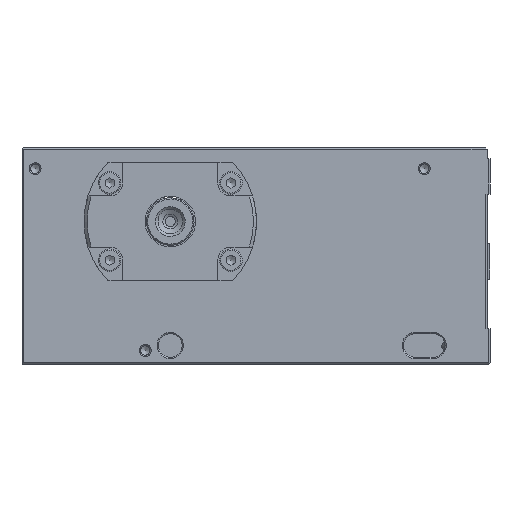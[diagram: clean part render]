
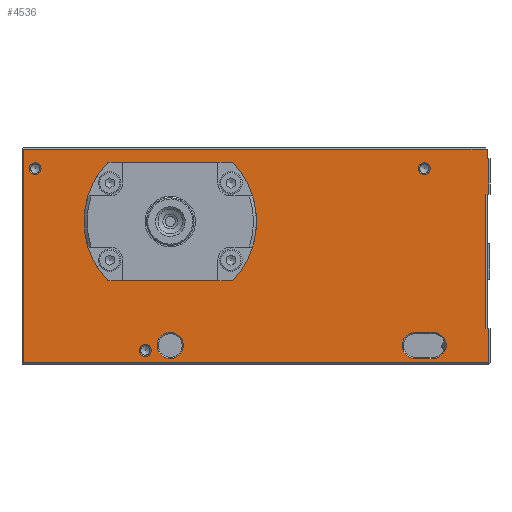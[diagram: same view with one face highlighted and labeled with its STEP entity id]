
A CAD part, left-side view. The second image highlights one B-rep face of the part: STEP entity #4536.
In plain terms, the highlighted planar face has unit normal (-1, 0, 0).
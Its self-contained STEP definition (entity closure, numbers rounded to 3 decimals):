
#171=CARTESIAN_POINT('',(0.0,43.6,31.284));
#172=VERTEX_POINT('',#171);
#173=CARTESIAN_POINT('',(0.0,43.6,30.5));
#174=DIRECTION('',(1.0,0.0,0.0));
#175=DIRECTION('',(0.0,0.0,1.0));
#176=AXIS2_PLACEMENT_3D('',#173,#174,#175);
#177=CIRCLE('',#176,0.784);
#178=EDGE_CURVE('',#172,#172,#177,.T.);
#250=CARTESIAN_POINT('',(0.0,43.6,18.284));
#251=VERTEX_POINT('',#250);
#252=CARTESIAN_POINT('',(0.0,43.6,17.5));
#253=DIRECTION('',(1.0,0.0,0.0));
#254=DIRECTION('',(0.0,0.0,1.0));
#255=AXIS2_PLACEMENT_3D('',#252,#253,#254);
#256=CIRCLE('',#255,0.784);
#257=EDGE_CURVE('',#251,#251,#256,.T.);
#329=CARTESIAN_POINT('',(0.0,64.,31.284));
#330=VERTEX_POINT('',#329);
#331=CARTESIAN_POINT('',(0.0,64.,30.5));
#332=DIRECTION('',(1.0,0.0,0.0));
#333=DIRECTION('',(0.0,0.0,1.0));
#334=AXIS2_PLACEMENT_3D('',#331,#332,#333);
#335=CIRCLE('',#334,0.784);
#336=EDGE_CURVE('',#330,#330,#335,.T.);
#408=CARTESIAN_POINT('',(0.0,64.,18.284));
#409=VERTEX_POINT('',#408);
#410=CARTESIAN_POINT('',(0.0,64.,17.5));
#411=DIRECTION('',(1.0,0.0,0.0));
#412=DIRECTION('',(0.0,0.0,1.0));
#413=AXIS2_PLACEMENT_3D('',#410,#411,#412);
#414=CIRCLE('',#413,0.784);
#415=EDGE_CURVE('',#409,#409,#414,.T.);
#1471=CARTESIAN_POINT('',(0.,0.5,34.6));
#1472=VERTEX_POINT('',#1471);
#1479=CARTESIAN_POINT('',(0.0,0.2,34.6));
#1480=VERTEX_POINT('',#1479);
#1481=CARTESIAN_POINT('',(0.0,0.2,34.6));
#1482=DIRECTION('',(0.0,1.0,0.0));
#1483=VECTOR('',#1482,0.3);
#1484=LINE('',#1481,#1483);
#1485=EDGE_CURVE('',#1480,#1472,#1484,.T.);
#3937=CARTESIAN_POINT('',(0.0,0.2,0.2));
#3938=VERTEX_POINT('',#3937);
#3945=CARTESIAN_POINT('',(0.0,78.55,0.2));
#3946=VERTEX_POINT('',#3945);
#3947=CARTESIAN_POINT('',(0.0,0.2,0.2));
#3948=DIRECTION('',(0.0,1.0,0.0));
#3949=VECTOR('',#3948,78.35);
#3950=LINE('',#3947,#3949);
#3951=EDGE_CURVE('',#3938,#3946,#3950,.T.);
#3985=CARTESIAN_POINT('',(0.0,0.2,6.));
#3986=VERTEX_POINT('',#3985);
#3993=CARTESIAN_POINT('',(0.0,0.2,6.));
#3994=DIRECTION('',(0.0,0.0,-1.0));
#3995=VECTOR('',#3994,5.8);
#3996=LINE('',#3993,#3995);
#3997=EDGE_CURVE('',#3986,#3938,#3996,.T.);
#4097=CARTESIAN_POINT('',(0.0,78.55,36.2));
#4098=VERTEX_POINT('',#4097);
#4099=CARTESIAN_POINT('',(0.0,78.55,0.2));
#4100=DIRECTION('',(0.0,0.0,1.0));
#4101=VECTOR('',#4100,36.0);
#4102=LINE('',#4099,#4101);
#4103=EDGE_CURVE('',#3946,#4098,#4102,.T.);
#4146=CARTESIAN_POINT('',(0.0,0.5,36.2));
#4147=VERTEX_POINT('',#4146);
#4184=CARTESIAN_POINT('',(0.0,78.55,36.2));
#4185=DIRECTION('',(0.0,-1.0,0.0));
#4186=VECTOR('',#4185,78.05);
#4187=LINE('',#4184,#4186);
#4188=EDGE_CURVE('',#4098,#4147,#4187,.T.);
#4240=CARTESIAN_POINT('',(0.0,0.7,6.));
#4241=VERTEX_POINT('',#4240);
#4258=CARTESIAN_POINT('',(0.0,0.7,28.6));
#4259=VERTEX_POINT('',#4258);
#4266=CARTESIAN_POINT('',(0.0,0.7,28.6));
#4267=DIRECTION('',(0.0,0.0,-1.0));
#4268=VECTOR('',#4267,22.6);
#4269=LINE('',#4266,#4268);
#4270=EDGE_CURVE('',#4259,#4241,#4269,.T.);
#4383=CARTESIAN_POINT('',(0.0,0.0,0.0));
#4384=DIRECTION('',(-1.0,0.0,0.0));
#4385=DIRECTION('',(0.0,0.0,1.0));
#4386=AXIS2_PLACEMENT_3D('',#4383,#4384,#4385);
#4387=PLANE('',#4386);
#4388=CARTESIAN_POINT('',(0.0,0.2,28.6));
#4389=VERTEX_POINT('',#4388);
#4390=CARTESIAN_POINT('',(0.0,0.7,28.6));
#4391=DIRECTION('',(0.0,-1.0,0.0));
#4392=VECTOR('',#4391,0.5);
#4393=LINE('',#4390,#4392);
#4394=EDGE_CURVE('',#4259,#4389,#4393,.T.);
#4395=ORIENTED_EDGE('',*,*,#4394,.T.);
#4396=CARTESIAN_POINT('',(0.0,0.2,34.6));
#4397=DIRECTION('',(0.0,0.0,-1.0));
#4398=VECTOR('',#4397,6.0);
#4399=LINE('',#4396,#4398);
#4400=EDGE_CURVE('',#1480,#4389,#4399,.T.);
#4401=ORIENTED_EDGE('',*,*,#4400,.F.);
#4402=ORIENTED_EDGE('',*,*,#1485,.T.);
#4403=CARTESIAN_POINT('',(0.,0.5,34.6));
#4404=DIRECTION('',(0.0,0.0,1.0));
#4405=VECTOR('',#4404,1.6);
#4406=LINE('',#4403,#4405);
#4407=EDGE_CURVE('',#1472,#4147,#4406,.T.);
#4408=ORIENTED_EDGE('',*,*,#4407,.T.);
#4409=ORIENTED_EDGE('',*,*,#4188,.F.);
#4410=ORIENTED_EDGE('',*,*,#4103,.F.);
#4411=ORIENTED_EDGE('',*,*,#3951,.F.);
#4412=ORIENTED_EDGE('',*,*,#3997,.F.);
#4413=CARTESIAN_POINT('',(0.0,0.2,6.));
#4414=DIRECTION('',(0.0,1.0,0.0));
#4415=VECTOR('',#4414,0.5);
#4416=LINE('',#4413,#4415);
#4417=EDGE_CURVE('',#3986,#4241,#4416,.T.);
#4418=ORIENTED_EDGE('',*,*,#4417,.T.);
#4419=ORIENTED_EDGE('',*,*,#4270,.F.);
#4420=EDGE_LOOP('',(#4395,#4401,#4402,#4408,#4409,#4410,#4411,#4412,#4418,#4419));
#4421=FACE_OUTER_BOUND('',#4420,.T.);
#4422=ORIENTED_EDGE('',*,*,#178,.T.);
#4423=EDGE_LOOP('',(#4422));
#4424=FACE_BOUND('',#4423,.T.);
#4425=ORIENTED_EDGE('',*,*,#257,.T.);
#4426=EDGE_LOOP('',(#4425));
#4427=FACE_BOUND('',#4426,.T.);
#4428=ORIENTED_EDGE('',*,*,#336,.T.);
#4429=EDGE_LOOP('',(#4428));
#4430=FACE_BOUND('',#4429,.T.);
#4431=ORIENTED_EDGE('',*,*,#415,.T.);
#4432=EDGE_LOOP('',(#4431));
#4433=FACE_BOUND('',#4432,.T.);
#4434=CARTESIAN_POINT('',(0.0,12.57,5.35));
#4435=VERTEX_POINT('',#4434);
#4436=CARTESIAN_POINT('',(0.0,12.57,0.95));
#4437=VERTEX_POINT('',#4436);
#4438=CARTESIAN_POINT('',(0.0,12.57,3.15));
#4439=DIRECTION('',(-1.0,0.0,0.0));
#4440=DIRECTION('',(0.0,0.0,1.0));
#4441=AXIS2_PLACEMENT_3D('',#4438,#4439,#4440);
#4442=CIRCLE('',#4441,2.2);
#4443=EDGE_CURVE('',#4435,#4437,#4442,.T.);
#4444=ORIENTED_EDGE('',*,*,#4443,.F.);
#4445=CARTESIAN_POINT('',(0.0,9.57,5.35));
#4446=VERTEX_POINT('',#4445);
#4447=CARTESIAN_POINT('',(0.0,9.57,5.35));
#4448=DIRECTION('',(0.0,1.0,0.0));
#4449=VECTOR('',#4448,3.0);
#4450=LINE('',#4447,#4449);
#4451=EDGE_CURVE('',#4446,#4435,#4450,.T.);
#4452=ORIENTED_EDGE('',*,*,#4451,.F.);
#4453=CARTESIAN_POINT('',(0.0,9.57,0.95));
#4454=VERTEX_POINT('',#4453);
#4455=CARTESIAN_POINT('',(0.0,9.57,3.15));
#4456=DIRECTION('',(-1.0,0.0,0.0));
#4457=DIRECTION('',(0.0,0.0,-1.0));
#4458=AXIS2_PLACEMENT_3D('',#4455,#4456,#4457);
#4459=CIRCLE('',#4458,2.2);
#4460=EDGE_CURVE('',#4454,#4446,#4459,.T.);
#4461=ORIENTED_EDGE('',*,*,#4460,.F.);
#4462=CARTESIAN_POINT('',(0.0,12.57,0.95));
#4463=DIRECTION('',(0.0,-1.0,0.0));
#4464=VECTOR('',#4463,3.0);
#4465=LINE('',#4462,#4464);
#4466=EDGE_CURVE('',#4437,#4454,#4465,.T.);
#4467=ORIENTED_EDGE('',*,*,#4466,.F.);
#4468=EDGE_LOOP('',(#4444,#4452,#4461,#4467));
#4469=FACE_BOUND('',#4468,.T.);
#4470=CARTESIAN_POINT('',(0.0,44.6,24.));
#4471=VERTEX_POINT('',#4470);
#4472=CARTESIAN_POINT('',(0.0,53.8,24.));
#4473=DIRECTION('',(-1.0,0.0,0.0));
#4474=DIRECTION('',(0.0,1.0,0.0));
#4475=AXIS2_PLACEMENT_3D('',#4472,#4473,#4474);
#4476=CIRCLE('',#4475,9.2);
#4477=EDGE_CURVE('',#4471,#4471,#4476,.T.);
#4478=ORIENTED_EDGE('',*,*,#4477,.F.);
#4479=EDGE_LOOP('',(#4478));
#4480=FACE_BOUND('',#4479,.T.);
#4481=CARTESIAN_POINT('',(0.0,40.0,24.));
#4482=VERTEX_POINT('',#4481);
#4483=CARTESIAN_POINT('',(0.0,42.0,24.));
#4484=DIRECTION('',(1.0,0.0,0.0));
#4485=DIRECTION('',(0.0,-1.0,0.0));
#4486=AXIS2_PLACEMENT_3D('',#4483,#4484,#4485);
#4487=CIRCLE('',#4486,2.0);
#4488=EDGE_CURVE('',#4482,#4482,#4487,.T.);
#4489=ORIENTED_EDGE('',*,*,#4488,.T.);
#4490=EDGE_LOOP('',(#4489));
#4491=FACE_BOUND('',#4490,.T.);
#4492=CARTESIAN_POINT('',(0.0,76.55,33.9));
#4493=VERTEX_POINT('',#4492);
#4494=CARTESIAN_POINT('',(0.0,76.55,32.9));
#4495=DIRECTION('',(1.0,0.0,0.0));
#4496=DIRECTION('',(0.0,0.0,1.0));
#4497=AXIS2_PLACEMENT_3D('',#4494,#4495,#4496);
#4498=CIRCLE('',#4497,1.0);
#4499=EDGE_CURVE('',#4493,#4493,#4498,.T.);
#4500=ORIENTED_EDGE('',*,*,#4499,.T.);
#4501=EDGE_LOOP('',(#4500));
#4502=FACE_BOUND('',#4501,.T.);
#4503=CARTESIAN_POINT('',(0.0,11.07,33.9));
#4504=VERTEX_POINT('',#4503);
#4505=CARTESIAN_POINT('',(0.0,11.07,32.9));
#4506=DIRECTION('',(1.0,0.0,0.0));
#4507=DIRECTION('',(0.0,0.0,1.0));
#4508=AXIS2_PLACEMENT_3D('',#4505,#4506,#4507);
#4509=CIRCLE('',#4508,1.0);
#4510=EDGE_CURVE('',#4504,#4504,#4509,.T.);
#4511=ORIENTED_EDGE('',*,*,#4510,.T.);
#4512=EDGE_LOOP('',(#4511));
#4513=FACE_BOUND('',#4512,.T.);
#4514=CARTESIAN_POINT('',(0.0,58.,3.3));
#4515=VERTEX_POINT('',#4514);
#4516=CARTESIAN_POINT('',(0.0,58.,2.3));
#4517=DIRECTION('',(1.0,0.0,0.0));
#4518=DIRECTION('',(0.0,0.0,1.0));
#4519=AXIS2_PLACEMENT_3D('',#4516,#4517,#4518);
#4520=CIRCLE('',#4519,1.0);
#4521=EDGE_CURVE('',#4515,#4515,#4520,.T.);
#4522=ORIENTED_EDGE('',*,*,#4521,.T.);
#4523=EDGE_LOOP('',(#4522));
#4524=FACE_BOUND('',#4523,.T.);
#4525=CARTESIAN_POINT('',(0.0,53.8,5.35));
#4526=VERTEX_POINT('',#4525);
#4527=CARTESIAN_POINT('',(0.0,53.8,3.15));
#4528=DIRECTION('',(-1.0,0.0,0.0));
#4529=DIRECTION('',(0.0,0.0,-1.0));
#4530=AXIS2_PLACEMENT_3D('',#4527,#4528,#4529);
#4531=CIRCLE('',#4530,2.2);
#4532=EDGE_CURVE('',#4526,#4526,#4531,.T.);
#4533=ORIENTED_EDGE('',*,*,#4532,.F.);
#4534=EDGE_LOOP('',(#4533));
#4535=FACE_BOUND('',#4534,.T.);
#4536=ADVANCED_FACE('',(#4421,#4424,#4427,#4430,#4433,#4469,#4480,#4491,#4502,#4513,#4524,#4535),#4387,.T.);
